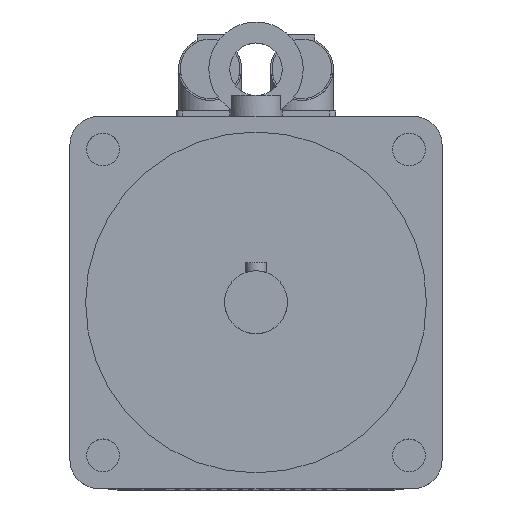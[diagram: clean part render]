
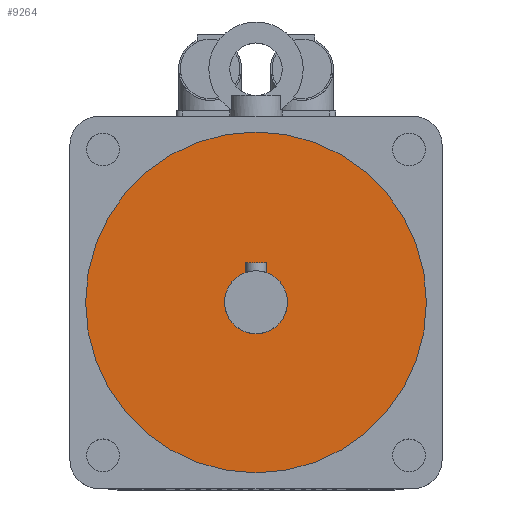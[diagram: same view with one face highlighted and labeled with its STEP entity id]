
A CAD part, top view. The second image highlights one B-rep face of the part: STEP entity #9264.
In plain terms, the highlighted planar face has unit normal (0, 0, 1).
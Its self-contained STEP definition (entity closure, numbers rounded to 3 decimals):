
#107=FACE_BOUND('',#909,.T.);
#283=FACE_OUTER_BOUND('',#908,.T.);
#908=EDGE_LOOP('',(#6623));
#909=EDGE_LOOP('',(#6624));
#1470=CIRCLE('',#9861,12.);
#1471=CIRCLE('',#9863,65.);
#4215=VERTEX_POINT('',#14403);
#4216=VERTEX_POINT('',#14406);
#5156=EDGE_CURVE('',#4215,#4215,#1470,.T.);
#5157=EDGE_CURVE('',#4216,#4216,#1471,.T.);
#6623=ORIENTED_EDGE('',*,*,#5157,.F.);
#6624=ORIENTED_EDGE('',*,*,#5156,.T.);
#8816=PLANE('',#9862);
#9264=ADVANCED_FACE('',(#283,#107),#8816,.T.);
#9861=AXIS2_PLACEMENT_3D('',#14404,#11242,#11243);
#9862=AXIS2_PLACEMENT_3D('',#14405,#11244,#11245);
#9863=AXIS2_PLACEMENT_3D('',#14407,#11246,#11247);
#11242=DIRECTION('center_axis',(0.,0.,-1.));
#11243=DIRECTION('ref_axis',(1.,0.,0.));
#11244=DIRECTION('center_axis',(0.,0.,1.));
#11245=DIRECTION('ref_axis',(1.,0.,0.));
#11246=DIRECTION('center_axis',(0.,0.,-1.));
#11247=DIRECTION('ref_axis',(1.,0.,0.));
#14403=CARTESIAN_POINT('',(0.,12.,272.));
#14404=CARTESIAN_POINT('Origin',(0.,0.,272.));
#14405=CARTESIAN_POINT('Origin',(0.,65.,272.));
#14406=CARTESIAN_POINT('',(0.,65.,272.));
#14407=CARTESIAN_POINT('Origin',(0.,0.,272.));
